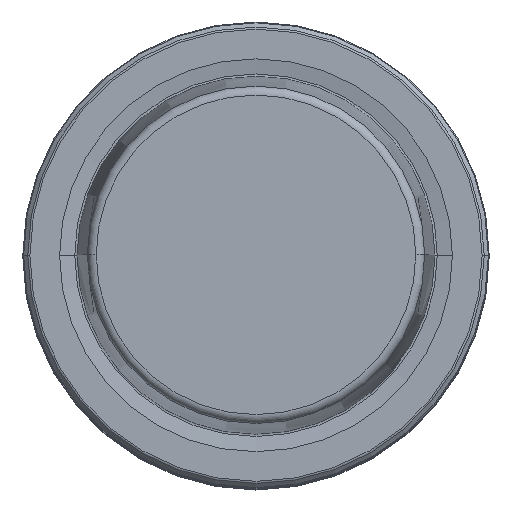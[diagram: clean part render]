
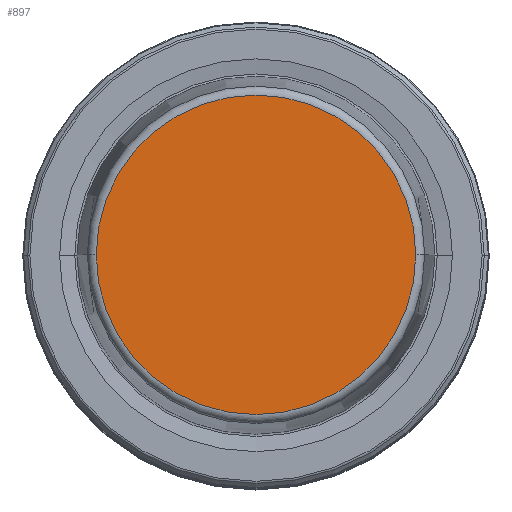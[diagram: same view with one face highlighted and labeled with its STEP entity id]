
A CAD part, top view. The second image highlights one B-rep face of the part: STEP entity #897.
In plain terms, the highlighted planar face has unit normal (0, 0, 1).
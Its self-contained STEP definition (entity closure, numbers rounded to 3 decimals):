
#118 = DIRECTION ( 'NONE',  ( 0., 0., -1. ) ) ;
#172 = CARTESIAN_POINT ( 'NONE',  ( -21.581, 0., 31.9 ) ) ;
#173 = EDGE_CURVE ( 'NONE', #1385, #1324, #1417, .T. ) ;
#307 = CARTESIAN_POINT ( 'NONE',  ( 0., 0., 31.9 ) ) ;
#417 = ORIENTED_EDGE ( 'NONE', *, *, #173, .T. ) ;
#429 = ORIENTED_EDGE ( 'NONE', *, *, #830, .T. ) ;
#436 = DIRECTION ( 'NONE',  ( 1., 0., 0. ) ) ;
#446 = DIRECTION ( 'NONE',  ( -1., 0., 0. ) ) ;
#462 = DIRECTION ( 'NONE',  ( 0., 0., 1. ) ) ;
#477 = FACE_OUTER_BOUND ( 'NONE', #1272, .T. ) ;
#634 = AXIS2_PLACEMENT_3D ( 'NONE', #1256, #118, #446 ) ;
#828 = CIRCLE ( 'NONE', #1422, 21.581 ) ;
#830 = EDGE_CURVE ( 'NONE', #1324, #1385, #828, .T. ) ;
#847 = CARTESIAN_POINT ( 'NONE',  ( 21.581, 0., 31.9 ) ) ;
#855 = AXIS2_PLACEMENT_3D ( 'NONE', #307, #1113, #436 ) ;
#897 = ADVANCED_FACE ( 'NONE', ( #477 ), #1474, .F. ) ;
#1113 = DIRECTION ( 'NONE',  ( 0., 0., 1. ) ) ;
#1136 = CARTESIAN_POINT ( 'NONE',  ( 0., 0., 31.9 ) ) ;
#1247 = DIRECTION ( 'NONE',  ( 1., 0., 0. ) ) ;
#1256 = CARTESIAN_POINT ( 'NONE',  ( 0., 0., 31.9 ) ) ;
#1272 = EDGE_LOOP ( 'NONE', ( #417, #429 ) ) ;
#1324 = VERTEX_POINT ( 'NONE', #172 ) ;
#1385 = VERTEX_POINT ( 'NONE', #847 ) ;
#1417 = CIRCLE ( 'NONE', #855, 21.581 ) ;
#1422 = AXIS2_PLACEMENT_3D ( 'NONE', #1136, #462, #1247 ) ;
#1474 = PLANE ( 'NONE',  #634 ) ;
